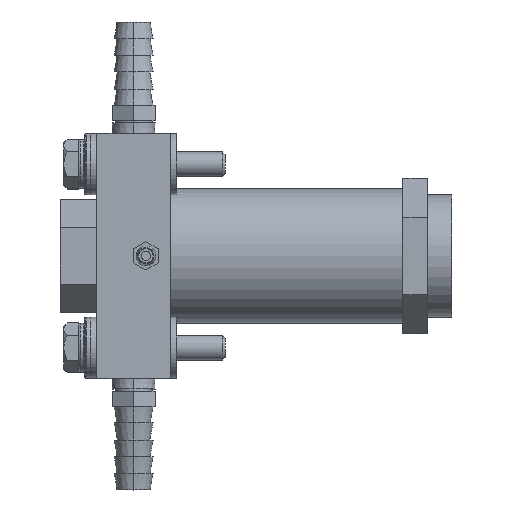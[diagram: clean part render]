
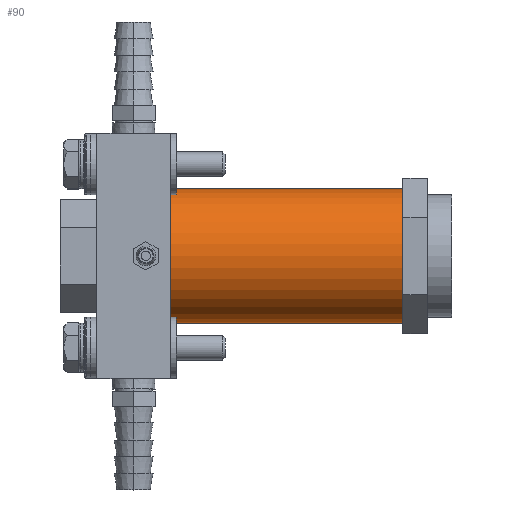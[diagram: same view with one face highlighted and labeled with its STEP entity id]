
A CAD part, top view. The second image highlights one B-rep face of the part: STEP entity #90.
In plain terms, the highlighted cylindrical face has radius 17.462 mm (diameter 34.925 mm), a partial arc.
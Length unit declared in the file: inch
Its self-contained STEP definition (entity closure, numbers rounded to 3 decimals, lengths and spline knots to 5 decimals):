
#28=CARTESIAN_POINT('',(-2.875,0.,0.));
#29=DIRECTION('',(-1.,0.,0.));
#30=DIRECTION('',(0.,-1.,0.));
#31=AXIS2_PLACEMENT_3D('',#28,#29,#30);
#38=DIRECTION('',(1.,0.,0.));
#39=VECTOR('',#38,2.375);
#40=CARTESIAN_POINT('',(-2.875,0.6875,0.));
#41=LINE('',#40,#39);
#42=DIRECTION('',(1.,0.,0.));
#43=VECTOR('',#42,2.375);
#44=CARTESIAN_POINT('',(-2.875,-0.6875,0.));
#45=LINE('',#44,#43);
#51=CARTESIAN_POINT('',(-0.5,0.,0.));
#52=DIRECTION('',(1.,0.,0.));
#53=DIRECTION('',(0.,1.,0.));
#54=AXIS2_PLACEMENT_3D('',#51,#52,#53);
#56=CARTESIAN_POINT('',(-2.875,-0.6875,0.));
#57=CARTESIAN_POINT('',(-0.5,-0.6875,0.));
#58=VERTEX_POINT('',#56);
#59=VERTEX_POINT('',#57);
#60=CARTESIAN_POINT('',(-2.875,0.6875,0.));
#61=CARTESIAN_POINT('',(-0.5,0.6875,0.));
#62=VERTEX_POINT('',#60);
#63=VERTEX_POINT('',#61);
#76=CARTESIAN_POINT('',(-2.375,0.,0.));
#77=DIRECTION('',(1.,0.,0.));
#78=DIRECTION('',(0.,-1.,0.));
#79=AXIS2_PLACEMENT_3D('',#76,#77,#78);
#80=CYLINDRICAL_SURFACE('',#79,0.6875);
#81=ORIENTED_EDGE('',*,*,#69,.T.);
#83=ORIENTED_EDGE('',*,*,#82,.T.);
#85=ORIENTED_EDGE('',*,*,#84,.T.);
#87=ORIENTED_EDGE('',*,*,#86,.F.);
#88=EDGE_LOOP('',(#81,#83,#85,#87));
#89=FACE_OUTER_BOUND('',#88,.F.);
#32=CIRCLE('',#31,0.6875);
#55=CIRCLE('',#54,0.6875);
#69=EDGE_CURVE('',#58,#62,#32,.T.);
#82=EDGE_CURVE('',#62,#63,#41,.T.);
#84=EDGE_CURVE('',#63,#59,#55,.T.);
#86=EDGE_CURVE('',#58,#59,#45,.T.);
#90=ADVANCED_FACE('',(#89),#80,.T.);
